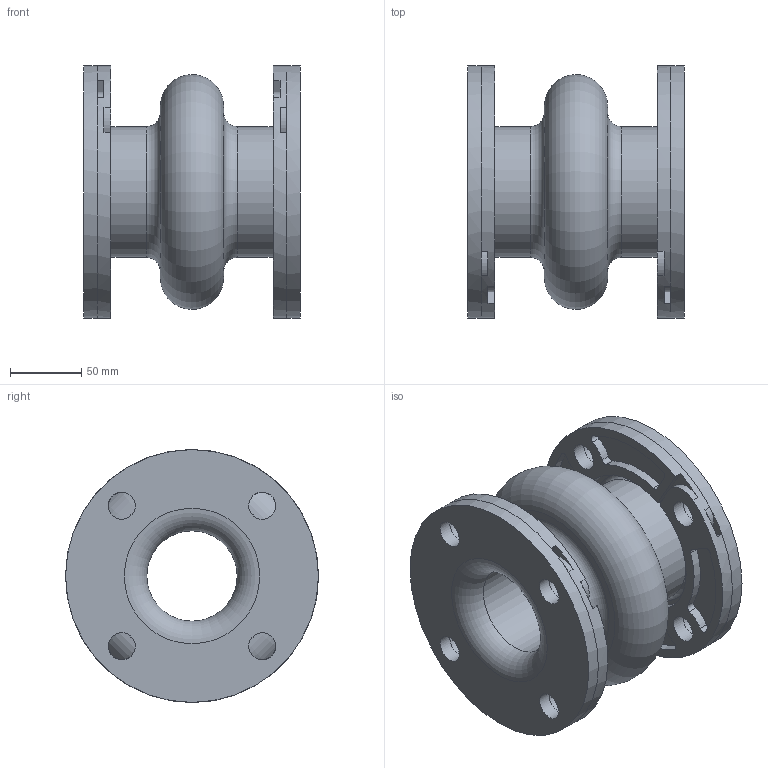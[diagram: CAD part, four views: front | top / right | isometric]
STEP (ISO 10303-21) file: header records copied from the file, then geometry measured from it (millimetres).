
FILE_DESCRIPTION(/* description */ (''),/* implementation_level */ '2;1');
FILE_NAME(/* name */ 'C:\001_Work\Designs\Mercer2014\MQInventor2014\RajR\500 Style\501\New folder\501 2.5IDx6FF.stp',/* time_stamp */ '2016-03-26T14:40:08-04:00',/* author */ ('rramoutar'),/* organization */ ('Mason Industries Inc.'),/* preprocessor_version */ 'ST-DEVELOPER v15.6',/* originating_system */ 'Autodesk Inventor 2015',/* authorisation */ '');
FILE_SCHEMA (('CONFIG_CONTROL_DESIGN'));
Length unit declared in the file: inch
Products named in the file (1): 501 2.5IDx6FF
Bounding box: 152.4 x 177.8 x 177.8 mm (x, y, z)
Volume: 1387473.6 mm3; surface area: 241464.2 mm2
Topology: 1 solids, 1 shells, 158 faces, 440 edges, 286 vertices
Faces by surface type: cylinder 98, plane 48, torus 8, cone 4
Full cylindrical faces by diameter (mm): 19.05 x16, 63.5 x2, 92.075 x2, 104.775 x2, 177.8 x4
Entity records: 5050 total; most frequent: DIRECTION 926, CARTESIAN_POINT 811, ORIENTED_EDGE 768, EDGE_CURVE 384, AXIS2_PLACEMENT_3D 383, VERTEX_POINT 268, EDGE_LOOP 224, CIRCLE 224
